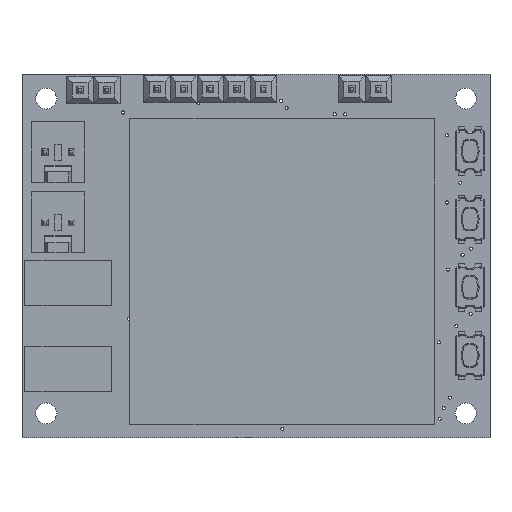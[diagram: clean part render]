
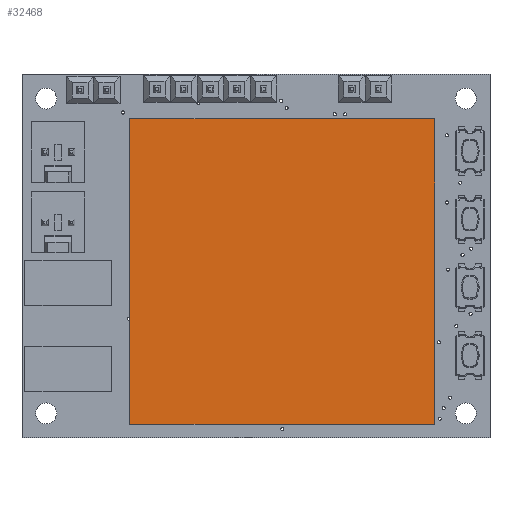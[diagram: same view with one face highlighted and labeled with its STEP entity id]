
A CAD part, top view. The second image highlights one B-rep face of the part: STEP entity #32468.
In plain terms, the highlighted planar face has unit normal (0, 0, 1).
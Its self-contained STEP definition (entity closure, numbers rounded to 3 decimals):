
#1641=PLANE('',#35037);
#3210=FACE_OUTER_BOUND('',#5275,.T.);
#5275=EDGE_LOOP('',(#26201,#26202,#26203,#26204));
#7971=LINE('',#50711,#11427);
#7974=LINE('',#50717,#11430);
#7977=LINE('',#50723,#11433);
#7980=LINE('',#50727,#11436);
#11427=VECTOR('',#41144,10.);
#11430=VECTOR('',#41149,10.);
#11433=VECTOR('',#41154,10.);
#11436=VECTOR('',#41159,10.);
#15378=VERTEX_POINT('',#50708);
#15379=VERTEX_POINT('',#50710);
#15381=VERTEX_POINT('',#50716);
#15383=VERTEX_POINT('',#50722);
#19177=EDGE_CURVE('',#15379,#15378,#7971,.T.);
#19180=EDGE_CURVE('',#15381,#15379,#7974,.T.);
#19183=EDGE_CURVE('',#15383,#15381,#7977,.T.);
#19186=EDGE_CURVE('',#15378,#15383,#7980,.T.);
#26201=ORIENTED_EDGE('',*,*,#19186,.T.);
#26202=ORIENTED_EDGE('',*,*,#19183,.T.);
#26203=ORIENTED_EDGE('',*,*,#19180,.T.);
#26204=ORIENTED_EDGE('',*,*,#19177,.T.);
#32468=ADVANCED_FACE('',(#3210),#1641,.T.);
#35037=AXIS2_PLACEMENT_3D('',#50728,#41160,#41161);
#41144=DIRECTION('',(0.,-1.,0.));
#41149=DIRECTION('',(-1.,0.,0.));
#41154=DIRECTION('',(0.,1.,0.));
#41159=DIRECTION('',(1.,0.,0.));
#41160=DIRECTION('center_axis',(0.,0.,
1.));
#41161=DIRECTION('ref_axis',(1.,0.,0.));
#50708=CARTESIAN_POINT('',(-14.524,-14.555,5.));
#50710=CARTESIAN_POINT('',(-14.524,14.555,5.));
#50711=CARTESIAN_POINT('',(-14.524,-14.555,5.));
#50716=CARTESIAN_POINT('',(14.524,14.555,5.));
#50717=CARTESIAN_POINT('',(-14.524,14.555,5.));
#50722=CARTESIAN_POINT('',(14.524,-14.555,5.));
#50723=CARTESIAN_POINT('',(14.524,14.555,5.));
#50727=CARTESIAN_POINT('',(14.524,-14.555,5.));
#50728=CARTESIAN_POINT('Origin',(0.,0.,
5.));
